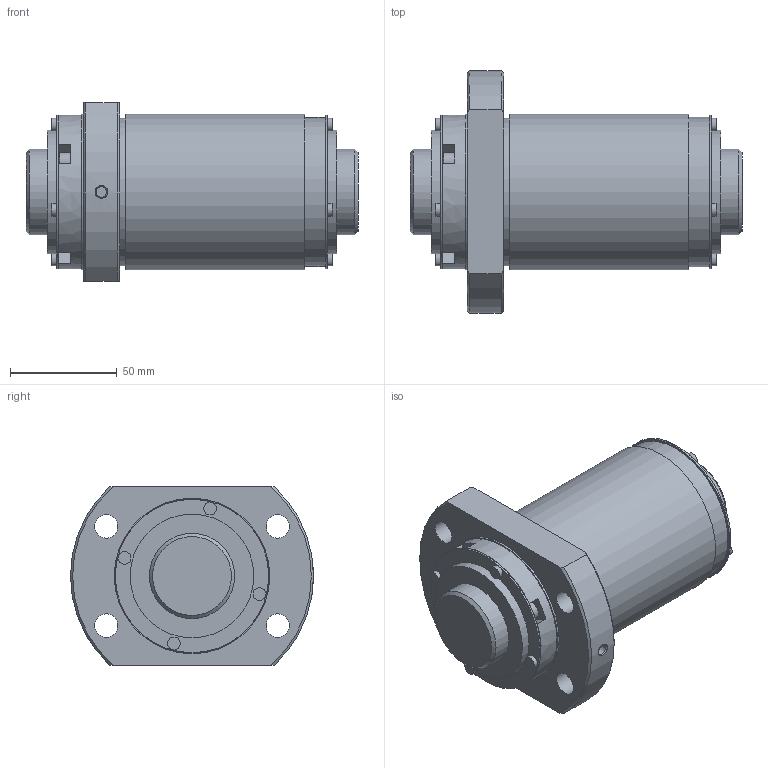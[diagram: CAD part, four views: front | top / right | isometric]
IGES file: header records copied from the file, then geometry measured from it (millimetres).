
Start section: Data from Parasolid IGES Translator 26.0.171, Copyright(c) 2006 Siemens PLM Software. All Rights Reserved.
Global section: file name: BLK4040-2.8ZZG1+155.8LC3_0_1300.igs; native system: By Siemens PLM Incorporated; preprocessor: XPlus GENERIC/IGES 26.0.171; author: Noname; organization: Noname; date: 20250116.070509; units: millimetre
Bounding box: 155.8 x 114 x 84 mm (x, y, z)
Surface area: 92118.5 mm2 (no closed solid volume)
Topology: 0 solids, 0 shells, 156 faces, 692 edges, 622 vertices
Faces by surface type: extrusion 95, revolution 61
